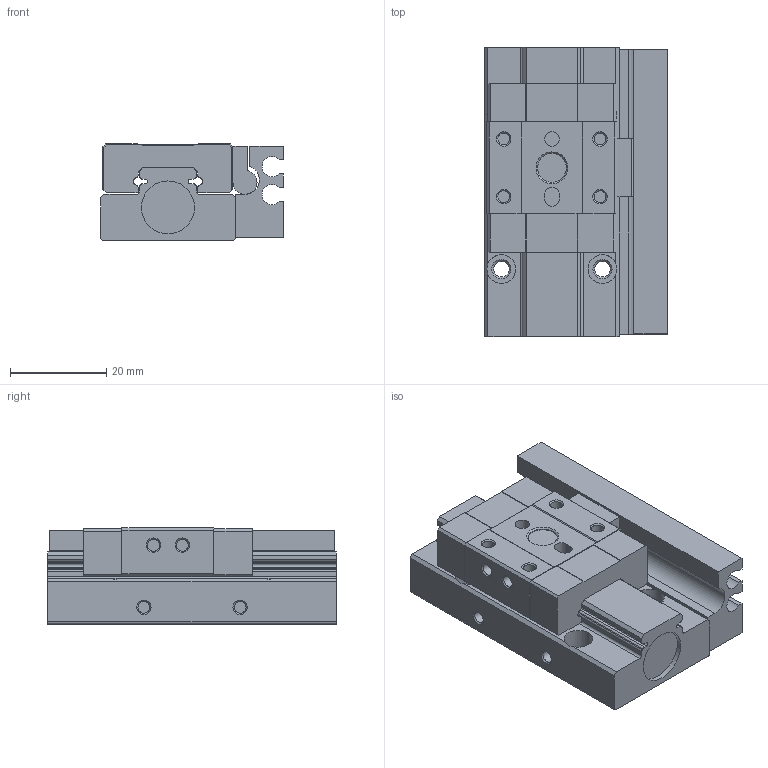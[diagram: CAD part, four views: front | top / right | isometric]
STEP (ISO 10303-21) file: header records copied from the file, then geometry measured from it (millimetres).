
FILE_DESCRIPTION(/* description */ ('STEP AP214'),/* implementation_level */ '2;1');
FILE_NAME(/* name */ 'HGS10X10S(0)',/* time_stamp */ '2024-09-22T10:36:06+02:00',/* author */ ('License CC BY-ND 4.0'),/* organization */ ('CADENAS'),/* preprocessor_version */ 'ST-DEVELOPER v19.3',/* originating_system */ 'PARTsolutions',/* authorisation */ ' ');
FILE_SCHEMA (('AUTOMOTIVE_DESIGN {1 0 10303 214 3 1 1}'));
Length unit declared in the file: millimetre
Products named in the file (5): HGS10X10S(0); HGS10X10S(0)_dummy; HGS10X10S(0)_body; F-HGS10X10H; HGS10X10S(0)_t
Assembly tree (4 placements, depth 2):
  HGS10X10S(0)
    HGS10X10S(0)_dummy
    HGS10X10S(0)_body
    F-HGS10X10H
    HGS10X10S(0)_t
Bounding box: 38 x 60 x 20 mm (x, y, z)
Volume: 31873.2 mm3; surface area: 16594.3 mm2
Topology: 3 solids, 5 shells, 248 faces, 594 edges, 387 vertices
Faces by surface type: plane 146, cylinder 76, cone 26
Full cylindrical faces by diameter (mm): 1 x2, 2.459 x14, 3 x4, 3.242 x4, 3.5 x2, 3.8 x2, 4.134 x2, 5.5 x2, 6 x6, 11 x2
Entity records: 6928 total; most frequent: DIRECTION 1210, CARTESIAN_POINT 1152, ORIENTED_EDGE 1040, EDGE_CURVE 520, AXIS2_PLACEMENT_3D 437, VERTEX_POINT 378, EDGE_LOOP 358, FACE_BOUND 358
